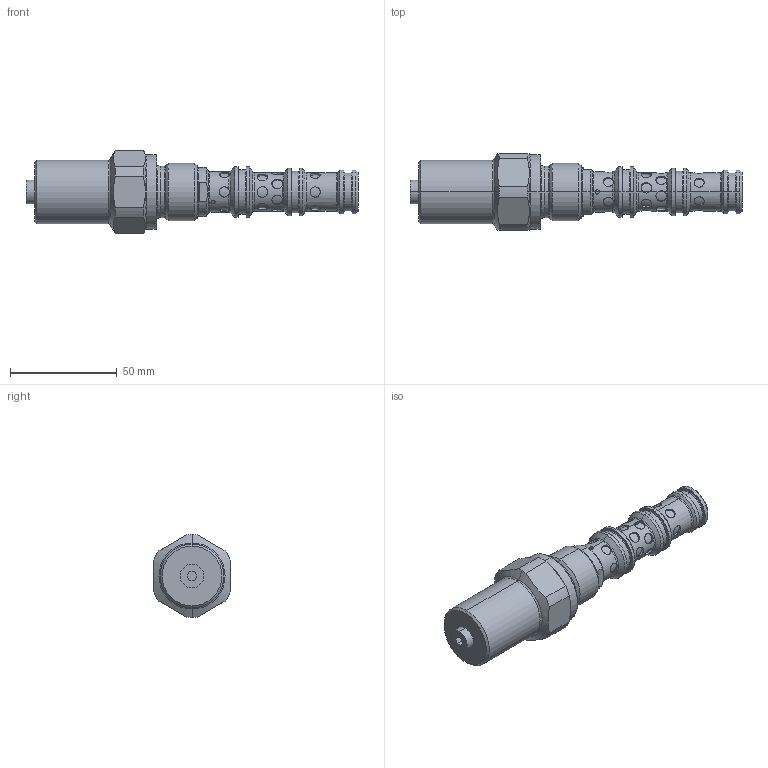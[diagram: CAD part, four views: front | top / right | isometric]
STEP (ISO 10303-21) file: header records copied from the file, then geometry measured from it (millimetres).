
FILE_DESCRIPTION (( 'STEP AP214' ), '1' );
FILE_NAME ('2_5_691_UPFPU12.STEP', '2025-07-15T13:42:11', ( '' ), ( '' ), 'SwSTEP 2.0', 'SolidWorks 2024', '' );
FILE_SCHEMA (( 'AUTOMOTIVE_DESIGN' ));
Length unit declared in the file: millimetre
Products named in the file (1): 2_5_691_UPFPU12
Bounding box: 155.82 x 36 x 39 mm (x, y, z)
Volume: 80856.5 mm3; surface area: 15562.7 mm2
Topology: 1 solids, 2 shells, 237 faces, 542 edges, 332 vertices
Faces by surface type: cylinder 129, cone 40, torus 38, plane 30
Entity records: 9750 total; most frequent: CARTESIAN_POINT 4560, ORIENTED_EDGE 1084, DIRECTION 1051, EDGE_CURVE 542, AXIS2_PLACEMENT_3D 439, VERTEX_POINT 332, EDGE_LOOP 262, FACE_OUTER_BOUND 237
